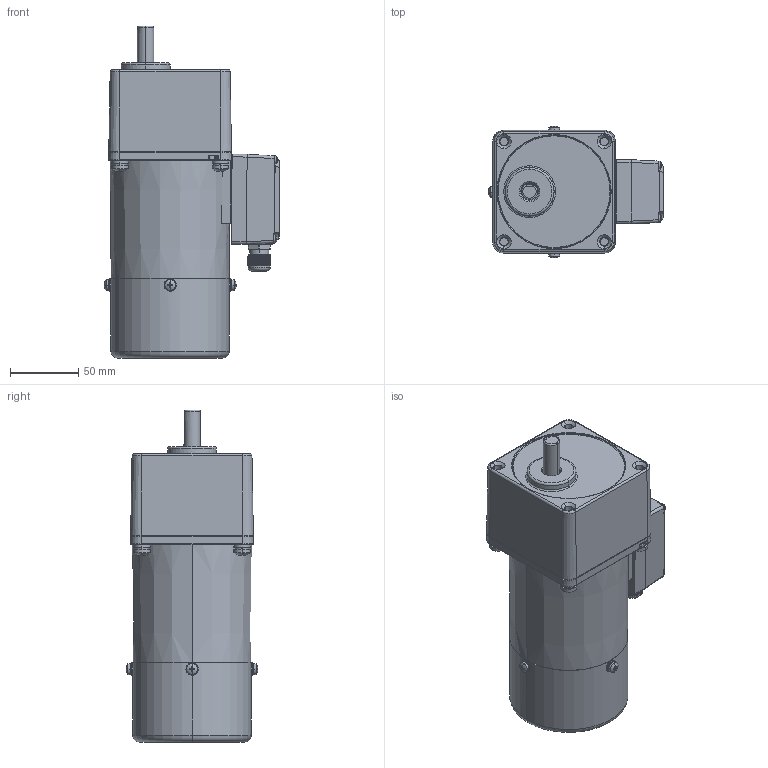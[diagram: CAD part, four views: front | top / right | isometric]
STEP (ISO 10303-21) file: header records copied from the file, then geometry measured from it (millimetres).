
FILE_DESCRIPTION (( 'STEP AP203' ), '1' );
FILE_NAME ('5RK40GN-CMT(5GN3K-200K).STEP', '2023-08-08T05:29:05', ( 'Windows User' ), ( 'P R C' ), 'SwSTEP 2.0', 'SolidWorks 2019', '' );
FILE_SCHEMA (( 'CONFIG_CONTROL_DESIGN' ));
Length unit declared in the file: millimetre
Products named in the file (11): 葩璃 (2) ^_70TSJXHG__5RK40GN-CMT(5GN3K-200K)(2)_5RK40GN-CMT(5GN3K-200K); ^70TSJXHG__5RK40GN-CMT(5GN3K-200K)(2)_5RK40GN-CMT(5GN3K-200K); ^_5RK40GN-CMT(5GN3K-200K)(2)_5RK40GN-CMT(5GN3K-200K); 70TSJXHG^_5RK40GN-CMT(5GN3K-200K)(2)_5RK40GN-CMT(5GN3K-200K); 5RK40GN-CMT(5GN3K-200K)(2)^5RK40GN-CMT(5GN3K-200K); 葩璃 (3) ^_70TSJXHG__5RK40GN-CMT(5GN3K-200K)(2)_5RK40GN-CMT(5GN3K-200K); 葩璃 (2) ^_5RK40GN-CMT(5GN3K-200K)(2)_5RK40GN-CMT(5GN3K-200K); ^5RK40GN-CMT(5GN3K-200K)(2)_5RK40GN-CMT(5GN3K-200K); 5RK40GN-CMT(5GN3K-200K); 5GN3K__200K^5RK40GN-CMT(5GN3K-200K)(2)_5RK40GN-CMT(5GN3K-200K); ^_70TSJXHG__5RK40GN-CMT(5GN3K-200K)(2)_5RK40GN-CMT(5GN3K-200K)
Assembly tree (13 placements, depth 6):
  5RK40GN-CMT(5GN3K-200K)
    5RK40GN-CMT(5GN3K-200K)(2)^5RK40GN-CMT(5GN3K-200K)
      ^5RK40GN-CMT(5GN3K-200K)(2)_5RK40GN-CMT(5GN3K-200K)
        70TSJXHG^_5RK40GN-CMT(5GN3K-200K)(2)_5RK40GN-CMT(5GN3K-200K)
          ^70TSJXHG__5RK40GN-CMT(5GN3K-200K)(2)_5RK40GN-CMT(5GN3K-200K)
            ^_70TSJXHG__5RK40GN-CMT(5GN3K-200K)(2)_5RK40GN-CMT(5GN3K-200K)
            葩璃 (2) ^_70TSJXHG__5RK40GN-CMT(5GN3K-200K)(2)_5RK40GN-CMT(5GN3K-200K)
            葩璃 (3) ^_70TSJXHG__5RK40GN-CMT(5GN3K-200K)(2)_5RK40GN-CMT(5GN3K-200K)  x4
        ^_5RK40GN-CMT(5GN3K-200K)(2)_5RK40GN-CMT(5GN3K-200K)
        葩璃 (2) ^_5RK40GN-CMT(5GN3K-200K)(2)_5RK40GN-CMT(5GN3K-200K)
      5GN3K__200K^5RK40GN-CMT(5GN3K-200K)(2)_5RK40GN-CMT(5GN3K-200K)
Bounding box: 128.79 x 96.71 x 243.5 mm (x, y, z)
Volume: 1231216.7 mm3; surface area: 170564.2 mm2
Topology: 51 solids, 51 shells, 1831 faces, 4691 edges, 2980 vertices
Faces by surface type: cylinder 681, plane 572, cone 365, sphere 100, torus 93, bspline 20
Entity records: 51240 total; most frequent: CARTESIAN_POINT 14549, DIRECTION 7821, ORIENTED_EDGE 7318, EDGE_CURVE 3659, AXIS2_PLACEMENT_3D 3199, VERTEX_POINT 2364, CIRCLE 1755, EDGE_LOOP 1549
